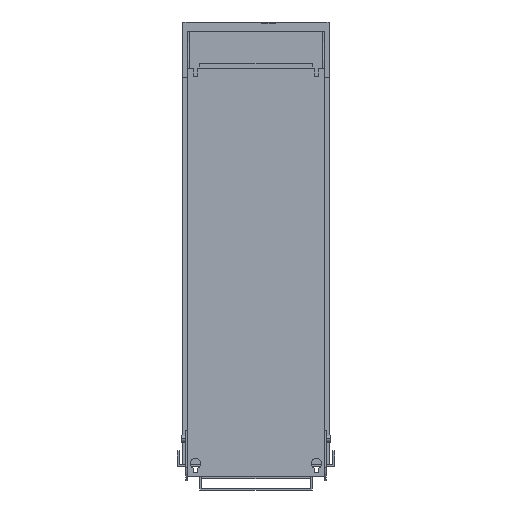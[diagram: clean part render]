
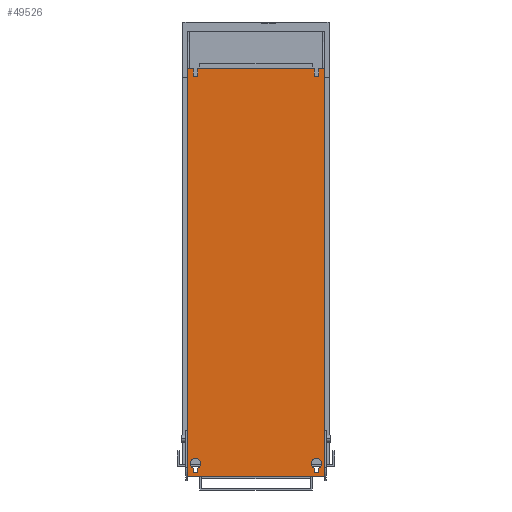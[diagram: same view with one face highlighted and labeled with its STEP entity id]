
A CAD part, front view. The second image highlights one B-rep face of the part: STEP entity #49526.
In plain terms, the highlighted planar face has unit normal (0, -1, 0).
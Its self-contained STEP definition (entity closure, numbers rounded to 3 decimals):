
#17625=DIRECTION('',(0.,0.,1.));
#17626=VECTOR('',#17625,8.);
#17627=CARTESIAN_POINT('',(-83.5,0.,-8.));
#17628=LINE('',#17627,#17626);
#17629=DIRECTION('',(1.,0.,0.));
#17630=VECTOR('',#17629,167.);
#17631=CARTESIAN_POINT('',(-83.5,0.,0.));
#17632=LINE('',#17631,#17630);
#17633=DIRECTION('',(0.,0.,-1.));
#17634=VECTOR('',#17633,8.);
#17635=CARTESIAN_POINT('',(83.5,0.,0.));
#17636=LINE('',#17635,#17634);
#17637=CARTESIAN_POINT('',(87.,0.,-8.));
#17638=DIRECTION('',(0.,-1.,0.));
#17639=DIRECTION('',(-1.,0.,0.));
#17640=AXIS2_PLACEMENT_3D('',#17637,#17638,#17639);
#17642=DIRECTION('',(0.,0.,1.));
#17643=VECTOR('',#17642,8.);
#17644=CARTESIAN_POINT('',(90.5,0.,-8.));
#17645=LINE('',#17644,#17643);
#17646=DIRECTION('',(1.,0.,0.));
#17647=VECTOR('',#17646,7.5);
#17648=CARTESIAN_POINT('',(90.5,0.,0.));
#17649=LINE('',#17648,#17647);
#17650=DIRECTION('',(0.,0.,-1.));
#17651=VECTOR('',#17650,586.);
#17652=CARTESIAN_POINT('',(98.,0.,0.));
#17653=LINE('',#17652,#17651);
#17654=DIRECTION('',(-1.,0.,0.));
#17655=VECTOR('',#17654,196.);
#17656=CARTESIAN_POINT('',(98.,0.,-586.));
#17657=LINE('',#17656,#17655);
#17658=DIRECTION('',(0.,0.,1.));
#17659=VECTOR('',#17658,586.);
#17660=CARTESIAN_POINT('',(-98.,0.,-586.));
#17661=LINE('',#17660,#17659);
#17662=DIRECTION('',(1.,0.,0.));
#17663=VECTOR('',#17662,7.5);
#17664=CARTESIAN_POINT('',(-98.,0.,0.));
#17665=LINE('',#17664,#17663);
#17666=DIRECTION('',(0.,0.,-1.));
#17667=VECTOR('',#17666,8.);
#17668=CARTESIAN_POINT('',(-90.5,0.,0.));
#17669=LINE('',#17668,#17667);
#17670=CARTESIAN_POINT('',(-87.,0.,-8.));
#17671=DIRECTION('',(0.,-1.,0.));
#17672=DIRECTION('',(-1.,0.,0.));
#17673=AXIS2_PLACEMENT_3D('',#17670,#17671,#17672);
#17675=DIRECTION('',(0.,0.,1.));
#17676=VECTOR('',#17675,3.367);
#17677=CARTESIAN_POINT('',(-83.5,0.,-578.));
#17678=LINE('',#17677,#17676);
#17679=CARTESIAN_POINT('',(-87.,0.,-568.));
#17680=DIRECTION('',(0.,-1.,0.));
#17681=DIRECTION('',(0.467,0.,-0.884));
#17682=AXIS2_PLACEMENT_3D('',#17679,#17680,#17681);
#17684=CARTESIAN_POINT('',(-87.,0.,-568.));
#17685=DIRECTION('',(0.,-1.,0.));
#17686=DIRECTION('',(1.,0.,0.));
#17687=AXIS2_PLACEMENT_3D('',#17684,#17685,#17686);
#17689=CARTESIAN_POINT('',(-87.,0.,-568.));
#17690=DIRECTION('',(0.,-1.,0.));
#17691=DIRECTION('',(-0.467,0.,0.884));
#17692=AXIS2_PLACEMENT_3D('',#17689,#17690,#17691);
#17694=CARTESIAN_POINT('',(-87.,0.,-568.));
#17695=DIRECTION('',(0.,-1.,0.));
#17696=DIRECTION('',(-1.,0.,0.));
#17697=AXIS2_PLACEMENT_3D('',#17694,#17695,#17696);
#17699=DIRECTION('',(0.,0.,-1.));
#17700=VECTOR('',#17699,3.367);
#17701=CARTESIAN_POINT('',(-90.5,0.,-574.633));
#17702=LINE('',#17701,#17700);
#17703=CARTESIAN_POINT('',(-87.,0.,-578.));
#17704=DIRECTION('',(0.,-1.,0.));
#17705=DIRECTION('',(-1.,0.,0.));
#17706=AXIS2_PLACEMENT_3D('',#17703,#17704,#17705);
#17708=DIRECTION('',(0.,0.,1.));
#17709=VECTOR('',#17708,3.367);
#17710=CARTESIAN_POINT('',(90.5,0.,-578.));
#17711=LINE('',#17710,#17709);
#17712=CARTESIAN_POINT('',(87.,0.,-568.));
#17713=DIRECTION('',(0.,-1.,0.));
#17714=DIRECTION('',(0.467,0.,-0.884));
#17715=AXIS2_PLACEMENT_3D('',#17712,#17713,#17714);
#17717=CARTESIAN_POINT('',(87.,0.,-568.));
#17718=DIRECTION('',(0.,-1.,0.));
#17719=DIRECTION('',(1.,0.,0.));
#17720=AXIS2_PLACEMENT_3D('',#17717,#17718,#17719);
#17722=CARTESIAN_POINT('',(87.,0.,-568.));
#17723=DIRECTION('',(0.,-1.,0.));
#17724=DIRECTION('',(-0.467,0.,0.884));
#17725=AXIS2_PLACEMENT_3D('',#17722,#17723,#17724);
#17727=CARTESIAN_POINT('',(87.,0.,-568.));
#17728=DIRECTION('',(0.,-1.,0.));
#17729=DIRECTION('',(-1.,0.,0.));
#17730=AXIS2_PLACEMENT_3D('',#17727,#17728,#17729);
#17732=DIRECTION('',(0.,0.,-1.));
#17733=VECTOR('',#17732,3.367);
#17734=CARTESIAN_POINT('',(83.5,0.,-574.633));
#17735=LINE('',#17734,#17733);
#17736=CARTESIAN_POINT('',(87.,0.,-578.));
#17737=DIRECTION('',(0.,-1.,0.));
#17738=DIRECTION('',(-1.,0.,0.));
#17739=AXIS2_PLACEMENT_3D('',#17736,#17737,#17738);
#21138=CARTESIAN_POINT('',(83.5,0.,0.));
#21139=VERTEX_POINT('',#21138);
#21140=CARTESIAN_POINT('',(-83.5,0.,0.));
#21141=VERTEX_POINT('',#21140);
#26060=CARTESIAN_POINT('',(-90.5,0.,0.));
#26061=VERTEX_POINT('',#26060);
#26062=CARTESIAN_POINT('',(-98.,0.,0.));
#26063=VERTEX_POINT('',#26062);
#26064=CARTESIAN_POINT('',(-90.5,0.,-8.));
#26065=VERTEX_POINT('',#26064);
#26066=CARTESIAN_POINT('',(-83.5,0.,-8.));
#26067=VERTEX_POINT('',#26066);
#26068=CARTESIAN_POINT('',(83.5,0.,-8.));
#26069=VERTEX_POINT('',#26068);
#26070=CARTESIAN_POINT('',(90.5,0.,-8.));
#26071=VERTEX_POINT('',#26070);
#26072=CARTESIAN_POINT('',(90.5,0.,0.));
#26073=VERTEX_POINT('',#26072);
#26074=CARTESIAN_POINT('',(98.,0.,0.));
#26075=VERTEX_POINT('',#26074);
#26076=CARTESIAN_POINT('',(98.,0.,-586.));
#26077=VERTEX_POINT('',#26076);
#26078=CARTESIAN_POINT('',(-98.,0.,-586.));
#26079=VERTEX_POINT('',#26078);
#26080=CARTESIAN_POINT('',(-83.5,0.,-578.));
#26081=CARTESIAN_POINT('',(-83.5,0.,-574.633));
#26082=VERTEX_POINT('',#26080);
#26083=VERTEX_POINT('',#26081);
#26084=CARTESIAN_POINT('',(-79.5,0.,-568.));
#26085=VERTEX_POINT('',#26084);
#26086=CARTESIAN_POINT('',(-90.5,0.,-561.367));
#26087=VERTEX_POINT('',#26086);
#26088=CARTESIAN_POINT('',(-94.5,0.,-568.));
#26089=VERTEX_POINT('',#26088);
#26090=CARTESIAN_POINT('',(-90.5,0.,-574.633));
#26091=VERTEX_POINT('',#26090);
#26092=CARTESIAN_POINT('',(-90.5,0.,-578.));
#26093=VERTEX_POINT('',#26092);
#26094=CARTESIAN_POINT('',(90.5,0.,-578.));
#26095=CARTESIAN_POINT('',(90.5,0.,-574.633));
#26096=VERTEX_POINT('',#26094);
#26097=VERTEX_POINT('',#26095);
#26098=CARTESIAN_POINT('',(94.5,0.,-568.));
#26099=VERTEX_POINT('',#26098);
#26100=CARTESIAN_POINT('',(83.5,0.,-561.367));
#26101=VERTEX_POINT('',#26100);
#26102=CARTESIAN_POINT('',(79.5,0.,-568.));
#26103=VERTEX_POINT('',#26102);
#26104=CARTESIAN_POINT('',(83.5,0.,-574.633));
#26105=VERTEX_POINT('',#26104);
#26106=CARTESIAN_POINT('',(83.5,0.,-578.));
#26107=VERTEX_POINT('',#26106);
#49466=CARTESIAN_POINT('',(0.,0.,-293.));
#49467=DIRECTION('',(0.,1.,0.));
#49468=DIRECTION('',(1.,0.,0.));
#49469=AXIS2_PLACEMENT_3D('',#49466,#49467,#49468);
#49470=PLANE('',#49469);
#49472=ORIENTED_EDGE('',*,*,#49471,.T.);
#49473=ORIENTED_EDGE('',*,*,#27934,.T.);
#49475=ORIENTED_EDGE('',*,*,#49474,.T.);
#49477=ORIENTED_EDGE('',*,*,#49476,.T.);
#49479=ORIENTED_EDGE('',*,*,#49478,.T.);
#49481=ORIENTED_EDGE('',*,*,#49480,.T.);
#49483=ORIENTED_EDGE('',*,*,#49482,.T.);
#49485=ORIENTED_EDGE('',*,*,#49484,.T.);
#49487=ORIENTED_EDGE('',*,*,#49486,.T.);
#49488=ORIENTED_EDGE('',*,*,#49442,.T.);
#49489=ORIENTED_EDGE('',*,*,#49457,.T.);
#49491=ORIENTED_EDGE('',*,*,#49490,.T.);
#49492=EDGE_LOOP('',(#49472,#49473,#49475,#49477,#49479,#49481,#49483,#49485,
#49487,#49488,#49489,#49491));
#49493=FACE_OUTER_BOUND('',#49492,.F.);
#49495=ORIENTED_EDGE('',*,*,#49494,.T.);
#49497=ORIENTED_EDGE('',*,*,#49496,.T.);
#49499=ORIENTED_EDGE('',*,*,#49498,.T.);
#49501=ORIENTED_EDGE('',*,*,#49500,.T.);
#49503=ORIENTED_EDGE('',*,*,#49502,.T.);
#49505=ORIENTED_EDGE('',*,*,#49504,.T.);
#49507=ORIENTED_EDGE('',*,*,#49506,.T.);
#49508=EDGE_LOOP('',(#49495,#49497,#49499,#49501,#49503,#49505,#49507));
#49509=FACE_BOUND('',#49508,.F.);
#49511=ORIENTED_EDGE('',*,*,#49510,.T.);
#49513=ORIENTED_EDGE('',*,*,#49512,.T.);
#49515=ORIENTED_EDGE('',*,*,#49514,.T.);
#49517=ORIENTED_EDGE('',*,*,#49516,.T.);
#49519=ORIENTED_EDGE('',*,*,#49518,.T.);
#49521=ORIENTED_EDGE('',*,*,#49520,.T.);
#49523=ORIENTED_EDGE('',*,*,#49522,.T.);
#49524=EDGE_LOOP('',(#49511,#49513,#49515,#49517,#49519,#49521,#49523));
#49525=FACE_BOUND('',#49524,.F.);
#17641=CIRCLE('',#17640,3.5);
#17674=CIRCLE('',#17673,3.5);
#17683=CIRCLE('',#17682,7.5);
#17688=CIRCLE('',#17687,7.5);
#17693=CIRCLE('',#17692,7.5);
#17698=CIRCLE('',#17697,7.5);
#17707=CIRCLE('',#17706,3.5);
#17716=CIRCLE('',#17715,7.5);
#17721=CIRCLE('',#17720,7.5);
#17726=CIRCLE('',#17725,7.5);
#17731=CIRCLE('',#17730,7.5);
#17740=CIRCLE('',#17739,3.5);
#27934=EDGE_CURVE('',#21141,#21139,#17632,.T.);
#49442=EDGE_CURVE('',#26063,#26061,#17665,.T.);
#49457=EDGE_CURVE('',#26061,#26065,#17669,.T.);
#49471=EDGE_CURVE('',#26067,#21141,#17628,.T.);
#49474=EDGE_CURVE('',#21139,#26069,#17636,.T.);
#49476=EDGE_CURVE('',#26069,#26071,#17641,.T.);
#49478=EDGE_CURVE('',#26071,#26073,#17645,.T.);
#49480=EDGE_CURVE('',#26073,#26075,#17649,.T.);
#49482=EDGE_CURVE('',#26075,#26077,#17653,.T.);
#49484=EDGE_CURVE('',#26077,#26079,#17657,.T.);
#49486=EDGE_CURVE('',#26079,#26063,#17661,.T.);
#49490=EDGE_CURVE('',#26065,#26067,#17674,.T.);
#49494=EDGE_CURVE('',#26082,#26083,#17678,.T.);
#49496=EDGE_CURVE('',#26083,#26085,#17683,.T.);
#49498=EDGE_CURVE('',#26085,#26087,#17688,.T.);
#49500=EDGE_CURVE('',#26087,#26089,#17693,.T.);
#49502=EDGE_CURVE('',#26089,#26091,#17698,.T.);
#49504=EDGE_CURVE('',#26091,#26093,#17702,.T.);
#49506=EDGE_CURVE('',#26093,#26082,#17707,.T.);
#49510=EDGE_CURVE('',#26096,#26097,#17711,.T.);
#49512=EDGE_CURVE('',#26097,#26099,#17716,.T.);
#49514=EDGE_CURVE('',#26099,#26101,#17721,.T.);
#49516=EDGE_CURVE('',#26101,#26103,#17726,.T.);
#49518=EDGE_CURVE('',#26103,#26105,#17731,.T.);
#49520=EDGE_CURVE('',#26105,#26107,#17735,.T.);
#49522=EDGE_CURVE('',#26107,#26096,#17740,.T.);
#49526=ADVANCED_FACE('',(#49493,#49509,#49525),#49470,.F.);
